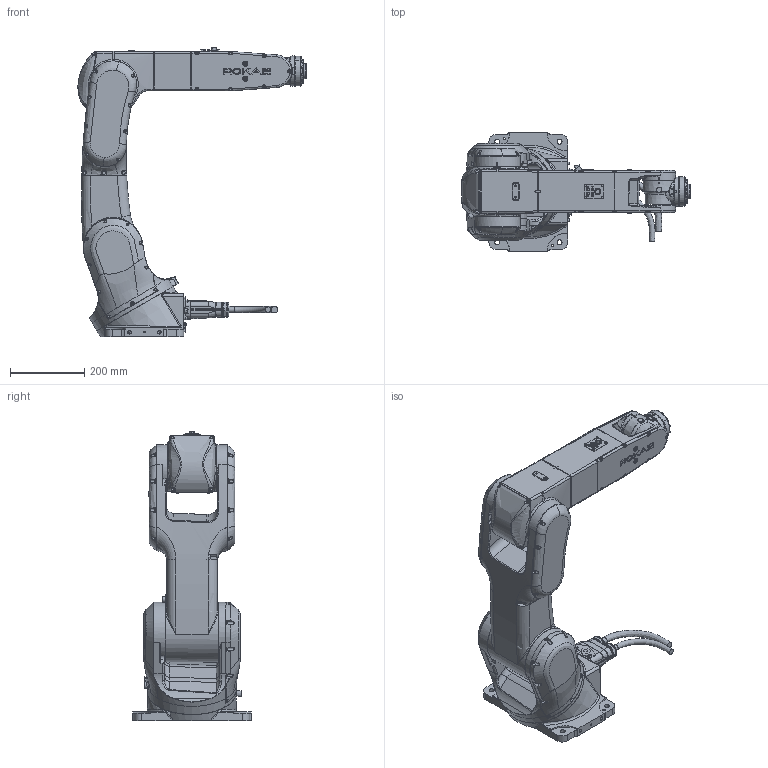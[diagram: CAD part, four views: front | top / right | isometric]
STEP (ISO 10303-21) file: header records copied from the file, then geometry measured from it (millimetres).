
FILE_DESCRIPTION(/* description */ (''),/* implementation_level */ '2;1');
FILE_NAME(/* name */ 'XB12／4-R906-04F4-S1 简化模型 20210617.stp',/* time_stamp */ '2021-08-03T15:15:39+08:00',/* author */ (''),/* organization */ (''),/* preprocessor_version */ 'ST-DEVELOPER v16',/* originating_system */ 'SIEMENS PLM Software NX 10.0',/* authorisation */ '');
FILE_SCHEMA (('CONFIG_CONTROL_DESIGN'));
Products named in the file (7): XB12／4-R906-04F4-S1-base; XB12／4-R906-04F4-S1-4; XB12／4-R906-04F4-S1-WS; XB12／4-R906-04F4-S1-3; XB12／4-R906-04F4-S1-2; XB12／4-R906-04F4-S1-1; XB12／4-R906-04F4 简化模型 202
10617_stp
Assembly tree (6 placements, depth 2):
  XB12／4-R906-04F4 简化模型 202
10617_stp
    XB12／4-R906-04F4-S1-1
    XB12／4-R906-04F4-S1-2
    XB12／4-R906-04F4-S1-3
    XB12／4-R906-04F4-S1-WS
    XB12／4-R906-04F4-S1-4
    XB12／4-R906-04F4-S1-base
Bounding box: 612.77 x 318 x 777.3 mm (x, y, z)
Volume: 27089354.2 mm3; surface area: 1336151.8 mm2
Topology: 8 solids, 17 shells, 3078 faces, 7447 edges, 4517 vertices
Faces by surface type: plane 994, cylinder 757, bspline 745, torus 227, cone 187, extrusion 136, sphere 32
Full cylindrical faces by diameter (mm): 3.3 x8, 3.4 x12, 4.2 x12, 4.5 x4, 4.826 x1, 5 x3, 5.5 x71, 6 x2, 7 x18, 8.5 x10, 9.5 x3, 10.701 x2, 13.5 x4, 14 x1, 15 x6, 20 x2, 40 x1, 45 x1, 50 x2, 55 x2, 59 x2, 65 x1, 68 x1, 70 x2, 86 x2, 88 x1, 100 x2, 119 x1, 120 x1
Entity records: 138468 total; most frequent: CARTESIAN_POINT 74442, ORIENTED_EDGE 13790, DIRECTION 11586, EDGE_CURVE 6895, AXIS2_PLACEMENT_3D 4570, VERTEX_POINT 4356, EDGE_LOOP 3590, ADVANCED_FACE 3070
